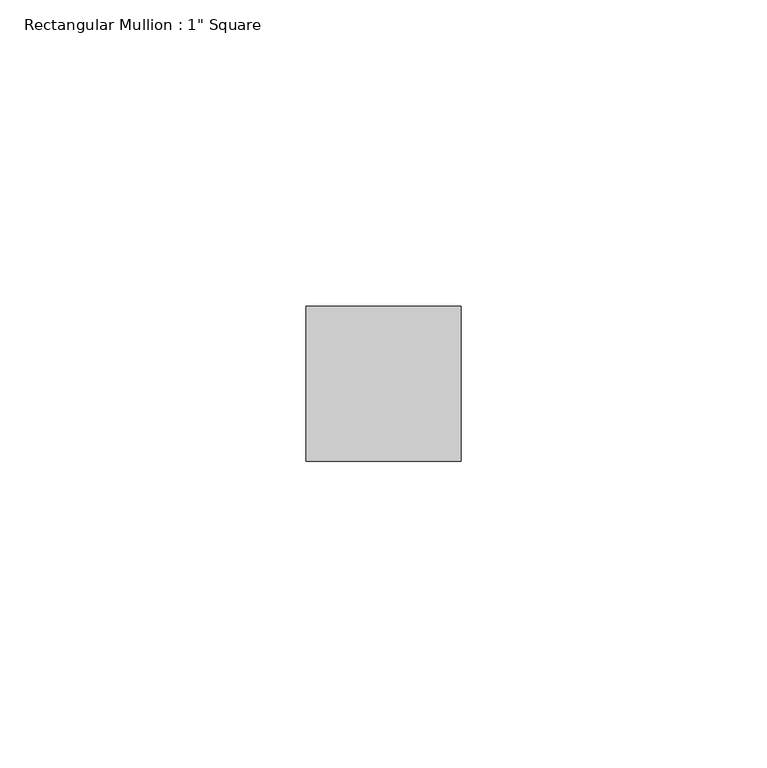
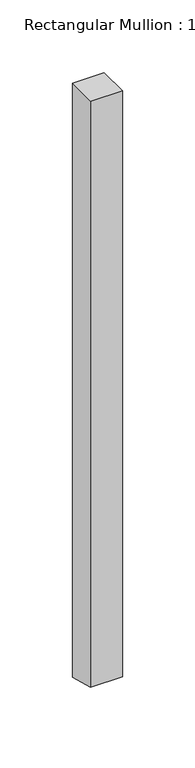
"""IFC4 building model written with IfcOpenShell, lengths in millimetres: member geometry."""

from ifc_helpers import new_model, si_unit, origin, place, context, project, spatial, faceted_brep, source, transform, mapped, element, save


def member_072b4eca(model_context):
    return source(origin(), model_context, "Body", "Brep", [
        faceted_brep([(0.0, 12.7, 0.0), (-25.4, 12.7, 0.0), (-25.4, -12.7, 0.0), (0.0, -12.7, 0.0), (0.0, 12.7, -500.0489304), (-25.4, 12.7, -499.9561292), (-25.4, -12.7, -493.2741971), (0.0, -12.7, -493.3669984)], [[[0, 1, 2, 3]], [[1, 0, 4, 5]], [[2, 1, 5, 6]], [[3, 2, 6, 7]], [[0, 3, 7, 4]], [[4, 7, 6, 5]]]),
    ])


if __name__ == "__main__":
    model = new_model("IFC4")
    model_context = context("Model", 3, world=origin())
    ifc_project = project(units=[si_unit("LENGTHUNIT", "METRE", prefix="MILLI")], contexts=[model_context])
    site = spatial("IfcSite", under=ifc_project)
    building = spatial("IfcBuilding", under=site)
    placement = place(None, origin())
    member_shape = member_072b4eca(model_context)
    element("IfcMember", 1, ObjectType="Rectangular Mullion : 1\" Square", at=placement, inside=building, context=model_context, shape_type="MappedRepresentation", body=[
        mapped(member_shape, transform((0.0, 0.0, 0.0), x_axis=(1.0, 0.0, 0.0), y_axis=(0.0, 1.0, 0.0), z_axis=(0.0, 0.0, 1.0))),
    ])
    save(model, "model.ifc")
